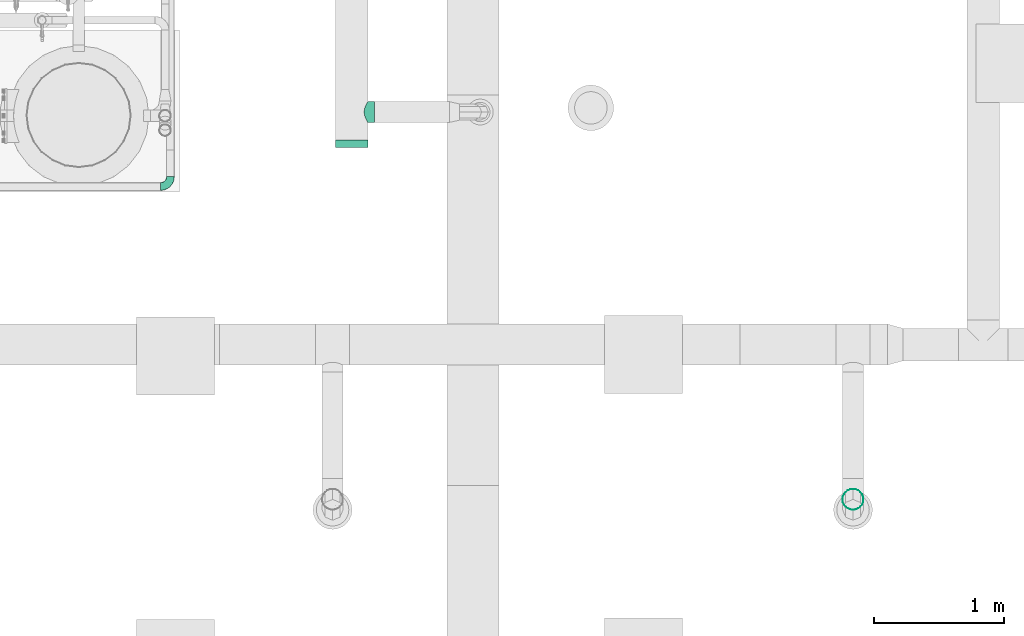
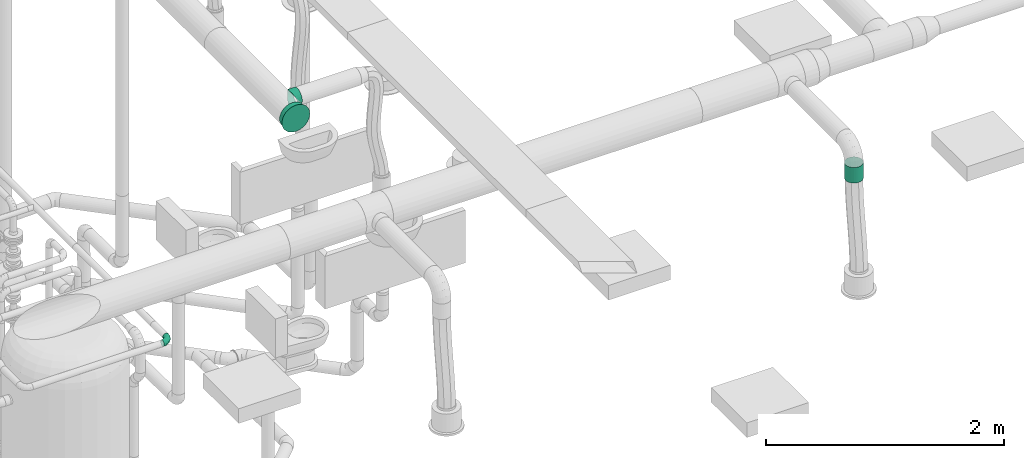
# One storey, part 95 of 374: 3 flow segments, 1 flow fitting.
"""IFC2X3 building model written with IfcOpenShell, lengths in metres."""

from ifc_helpers import new_model, si_unit, direction, origin, place, context, subcontext, project, spatial, open_shell, surface_model, source, transform, mapped, element, save


model = new_model("IFC2X3")

# Units and contexts
model_context = context("Model", 3, precision=1e-05, world=origin(), true_north=direction((-0.4480736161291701, 0.8939966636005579)))
body_context = subcontext(model_context, "Body", "Model", "MODEL_VIEW")
ifc_project = project(units=[si_unit("LENGTHUNIT", "METRE"), si_unit("AREAUNIT", "SQUARE_METRE"), si_unit("VOLUMEUNIT", "CUBIC_METRE"), si_unit("PLANEANGLEUNIT", "RADIAN"), si_unit("THERMODYNAMICTEMPERATUREUNIT", "KELVIN"), si_unit("MASSUNIT", "GRAM", prefix="KILO"), si_unit("TIMEUNIT", "SECOND")], contexts=[model_context])

# Site, building, storey
site_placement = place(None, origin())
site = spatial("IfcSite", under=ifc_project, at=site_placement, Name="Site 1", CompositionType="ELEMENT")
building_placement = place(site_placement, origin())
building = spatial("IfcBuilding", under=site, at=building_placement, Name="Undefined", CompositionType="ELEMENT")
storey_placement = place(building_placement, origin())
storey = spatial("IfcBuildingStorey", under=building, at=storey_placement, Name="Rez de chauss\x8ee", CompositionType="ELEMENT", Elevation=0.0)

# Flow segments
shared_shape_1 = source(origin(), body_context, "Body", "SurfaceModel", [
    surface_model("IfcFaceBasedSurfaceModel", [(0.0, 0.020884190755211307, 0.0), (0.0, 0.0, 0.0), (0.16000000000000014, 0.0, -4.4408921e-16), (0.16000000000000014, 0.0208841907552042, -4.4408921e-16), (0.0, -0.020172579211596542, -0.005405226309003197), (0.16000000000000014, -0.020172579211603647, -0.005405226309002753), (0.0, -0.03825881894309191, -0.015847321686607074), (0.16000000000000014, -0.03825881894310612, -0.015847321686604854), (0.0, -0.05302617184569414, -0.0306146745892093), (0.16000000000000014, -0.05302617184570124, -0.03061467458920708), (0.0, -0.06346826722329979, -0.04870091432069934), (0.16000000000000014, -0.0634682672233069, -0.04870091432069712), (0.0, -0.06887349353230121, -0.06887349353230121), (0.16000000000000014, -0.06887349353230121, -0.06887349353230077), (0.0, -0.06887349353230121, -0.08975768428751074), (0.16000000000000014, -0.06887349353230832, -0.08975768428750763), (0.0, -0.06346826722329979, -0.10993026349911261), (0.16000000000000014, -0.0634682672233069, -0.10993026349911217), (0.0, -0.05302617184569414, -0.12801650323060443), (0.16000000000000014, -0.05302617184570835, -0.1280165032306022), (0.0, -0.038258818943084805, -0.14278385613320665), (0.16000000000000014, -0.03825881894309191, -0.14278385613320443), (0.0, -0.020172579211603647, -0.15322595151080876), (0.16000000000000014, -0.020172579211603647, -0.1532259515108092), (0.0, 7.105427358e-15, -0.15863117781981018), (0.16000000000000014, -7.105427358e-15, -0.15863117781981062), (0.0, 0.020884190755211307, -0.15863117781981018), (0.16000000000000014, 0.0208841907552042, -0.15863117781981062), (0.0, 0.04105676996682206, -0.15322595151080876), (0.16000000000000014, 0.04105676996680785, -0.1532259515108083), (0.0, 0.05914300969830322, -0.1427838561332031), (0.16000000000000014, 0.05914300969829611, -0.14278385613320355), (0.0, 0.07391036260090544, -0.12801650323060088), (0.16000000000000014, 0.07391036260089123, -0.1280165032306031), (0.0, 0.0843524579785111, -0.10993026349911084), (0.16000000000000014, 0.08435245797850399, -0.10993026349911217), (0.0, 0.08975768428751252, -0.08975768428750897), (0.16000000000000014, 0.08975768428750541, -0.08975768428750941), (0.0, 0.08975768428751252, -0.06887349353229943), (0.16000000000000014, 0.08975768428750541, -0.06887349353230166), (0.0, 0.0843524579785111, -0.048700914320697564), (0.16000000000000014, 0.08435245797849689, -0.04870091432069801), (0.0, 0.07391036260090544, -0.030614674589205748), (0.16000000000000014, 0.07391036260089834, -0.03061467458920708), (0.0, 0.05914300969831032, -0.015847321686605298), (0.16000000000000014, 0.05914300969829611, -0.01584732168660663), (0.0, 0.04105676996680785, -0.005405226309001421), (0.16000000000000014, 0.04105676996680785, -0.005405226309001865)], [open_shell([[[0, 1, 2, 3]], [[1, 4, 5, 2]], [[4, 6, 7, 5]], [[6, 8, 9, 7]], [[8, 10, 11, 9]], [[10, 12, 13, 11]], [[12, 14, 15, 13]], [[14, 16, 17, 15]], [[16, 18, 19, 17]], [[18, 20, 21, 19]], [[20, 22, 23, 21]], [[22, 24, 25, 23]], [[24, 26, 27, 25]], [[26, 28, 29, 27]], [[28, 30, 31, 29]], [[30, 32, 33, 31]], [[32, 34, 35, 33]], [[34, 36, 37, 35]], [[36, 38, 39, 37]], [[38, 40, 41, 39]], [[40, 42, 43, 41]], [[42, 44, 45, 43]], [[44, 46, 47, 45]], [[46, 0, 3, 47]]])]),
])
flow_segment_1_placement = place(storey_placement, origin())
element("IfcFlowSegment", 1, at=flow_segment_1_placement, inside=storey, Name="Tube", ObjectType="Tube", context=body_context, shape_type="MappedRepresentation", body=[
    mapped(shared_shape_1, transform((60.269298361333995, 7.112272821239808, 3.4800000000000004), x_axis=(0.0, 0.0, 1.0), y_axis=(0.9914448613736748, 0.13052619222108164, 0.0), z_axis=(-0.13052619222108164, 0.9914448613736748, 0.0))),
])
shared_shape_2 = source(origin(), body_context, "Body", "SurfaceModel", [
    surface_model("IfcFaceBasedSurfaceModel", [(0.001726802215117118, 0.020884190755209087, 0.0), (0.0, 0.0, 0.0), (0.051726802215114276, 8.8817842e-16, 0.0), (0.051726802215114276, 0.020884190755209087, 0.0), (-0.0048460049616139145, -0.02017257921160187, -0.005405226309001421), (0.051726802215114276, -0.02017257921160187, -0.005405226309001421), (-0.011805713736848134, -0.0382588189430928, -0.015847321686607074), (0.051726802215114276, -0.0382588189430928, -0.015847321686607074), (-0.019229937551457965, -0.05302617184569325, -0.0306146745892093), (0.051726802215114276, -0.05302617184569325, -0.0306146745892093), (-0.025019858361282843, -0.06346826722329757, -0.04870091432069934), (0.051726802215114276, -0.06346826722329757, -0.04870091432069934), (-0.027226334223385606, -0.06887349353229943, -0.06887349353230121), (0.051726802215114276, -0.06887349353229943, -0.06887349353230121), (-0.025019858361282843, -0.06887349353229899, -0.08975768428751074), (0.051726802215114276, -0.06887349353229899, -0.08975768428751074), (-0.019229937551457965, -0.06346826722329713, -0.10993026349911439), (0.051726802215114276, -0.06346826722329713, -0.10993026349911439), (-0.011805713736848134, -0.05302617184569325, -0.12801650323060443), (0.051726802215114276, -0.05302617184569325, -0.12801650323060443), (-0.0048460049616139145, -0.038258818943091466, -0.14278385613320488), (0.051726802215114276, -0.038258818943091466, -0.14278385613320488), (0.0, -0.020172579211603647, -0.15322595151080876), (0.051726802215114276, -0.020172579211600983, -0.15322595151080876), (0.001726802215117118, 2.220446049e-15, -0.15863117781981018), (0.051726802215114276, 2.220446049e-15, -0.15863117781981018), (0.0, 0.020884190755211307, -0.15863117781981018), (0.051726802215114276, 0.020884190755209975, -0.15863117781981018), (-0.0048460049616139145, 0.04105676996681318, -0.15322595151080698), (0.051726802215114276, 0.04105676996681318, -0.15322595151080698), (-0.011805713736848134, 0.05914300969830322, -0.1427838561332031), (0.051726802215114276, 0.05914300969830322, -0.1427838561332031), (-0.019229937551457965, 0.07391036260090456, -0.12801650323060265), (0.051726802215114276, 0.07391036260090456, -0.12801650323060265), (-0.025019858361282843, 0.08435245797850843, -0.10993026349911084), (0.051726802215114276, 0.08435245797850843, -0.10993026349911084), (-0.027226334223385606, 0.08975768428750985, -0.08975768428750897), (0.051726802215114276, 0.08975768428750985, -0.08975768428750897), (-0.025019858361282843, 0.08975768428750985, -0.06887349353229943), (0.051726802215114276, 0.08975768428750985, -0.06887349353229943), (-0.019229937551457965, 0.08435245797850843, -0.048700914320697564), (0.051726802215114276, 0.08435245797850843, -0.048700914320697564), (-0.011805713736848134, 0.07391036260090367, -0.030614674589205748), (0.051726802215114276, 0.07391036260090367, -0.030614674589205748), (-0.0048460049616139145, 0.05914300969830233, -0.01584732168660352), (0.051726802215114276, 0.05914300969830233, -0.01584732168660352), (0.0, 0.04105676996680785, -0.005405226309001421), (0.051726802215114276, 0.04105676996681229, -0.005405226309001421)], [open_shell([[[0, 1, 2, 3]], [[1, 4, 5, 2]], [[4, 6, 7, 5]], [[6, 8, 9, 7]], [[8, 10, 11, 9]], [[10, 12, 13, 11]], [[12, 14, 15, 13]], [[14, 16, 17, 15]], [[16, 18, 19, 17]], [[18, 20, 21, 19]], [[20, 22, 23, 21]], [[22, 24, 25, 23]], [[24, 26, 27, 25]], [[26, 28, 29, 27]], [[28, 30, 31, 29]], [[30, 32, 33, 31]], [[32, 34, 35, 33]], [[34, 36, 37, 35]], [[36, 38, 39, 37]], [[38, 40, 41, 39]], [[40, 42, 43, 41]], [[42, 44, 45, 43]], [[44, 46, 47, 45]], [[46, 0, 3, 47]]])]),
])
flow_segment_2_placement = place(storey_placement, origin())
element("IfcFlowSegment", 2, at=flow_segment_2_placement, inside=storey, Name="Piquage équerre circulaire", ObjectType="Piquage équerre circulaire", context=body_context, shape_type="MappedRepresentation", body=[
    mapped(shared_shape_2, transform((56.559324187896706, 9.934959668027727, 3.779294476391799), x_axis=(1.0, 0.0, 0.0), y_axis=(0.0, -0.1305261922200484, 0.9914448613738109), z_axis=(0.0, -0.9914448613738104, -0.13052619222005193))),
])

# Flow fitting
shared_shape_3 = source(origin(), body_context, "Body", "SurfaceModel", [
    surface_model("IfcFaceBasedSurfaceModel", [(0.0, 0.03263154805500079, 0.0), (0.0, 0.0, 0.0), (0.05940000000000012, 7.105427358e-15, 4.4408921e-16), (0.05940000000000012, 0.03263154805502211, 4.4408921e-16), (0.0, -0.031519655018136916, -0.008445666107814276), (0.05940000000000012, -0.03151965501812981, -0.008445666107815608), (0.0, -0.05977940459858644, -0.024761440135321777), (0.05940000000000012, -0.05977940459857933, -0.024761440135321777), (0.0, -0.08285339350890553, -0.047835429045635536), (0.05940000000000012, -0.08285339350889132, -0.04783542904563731), (0.0, -0.09916916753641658, -0.07609517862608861), (0.05940000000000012, -0.09916916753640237, -0.07609517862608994), (0.0, -0.1076148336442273, -0.10761483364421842), (0.05940000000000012, -0.10761483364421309, -0.1076148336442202), (0.0, -0.1076148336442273, -0.14024638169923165), (0.05940000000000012, -0.10761483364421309, -0.14024638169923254), (0.0, -0.09916916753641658, -0.17176603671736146), (0.05940000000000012, -0.09916916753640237, -0.17176603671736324), (0.0, -0.08285339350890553, -0.2000257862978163), (0.05940000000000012, -0.08285339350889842, -0.20002578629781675), (0.0, -0.059779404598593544, -0.22309977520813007), (0.05940000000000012, -0.05977940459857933, -0.22309977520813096), (0.0, -0.03151965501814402, -0.23941554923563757), (0.05940000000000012, -0.031519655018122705, -0.23941554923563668), (0.0, -1.4210854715e-14, -0.24786121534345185), (0.05940000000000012, 7.105427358e-15, -0.2478612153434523), (0.0, 0.03263154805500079, -0.24786121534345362), (0.05940000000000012, 0.032631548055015, -0.24786121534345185), (0.0, 0.0641512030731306, -0.23941554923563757), (0.05940000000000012, 0.06415120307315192, -0.23941554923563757), (0.0, 0.09241095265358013, -0.22309977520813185), (0.05940000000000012, 0.09241095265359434, -0.2230997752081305), (0.0, 0.11548494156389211, -0.2000257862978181), (0.05940000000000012, 0.11548494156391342, -0.20002578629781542), (0.0, 0.13180071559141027, -0.171766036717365), (0.05940000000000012, 0.13180071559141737, -0.17176603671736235), (0.0, 0.140246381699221, -0.1402463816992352), (0.05940000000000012, 0.1402463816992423, -0.14024638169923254), (0.0, 0.140246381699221, -0.10761483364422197), (0.05940000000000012, 0.1402463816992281, -0.10761483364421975), (0.0, 0.13180071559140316, -0.07609517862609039), (0.05940000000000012, 0.13180071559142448, -0.0760951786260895), (0.0, 0.11548494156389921, -0.04783542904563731), (0.05940000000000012, 0.11548494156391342, -0.047835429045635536), (0.0, 0.09241095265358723, -0.024761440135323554), (0.05940000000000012, 0.09241095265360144, -0.02476144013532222), (0.0, 0.06415120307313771, -0.008445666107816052), (0.05940000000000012, 0.06415120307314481, -0.00844566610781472), (0.05940000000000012, 0.034002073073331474, 0.010410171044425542), (0.05940000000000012, -0.0013705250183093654, 0.010410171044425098), (0.060000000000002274, -0.0013705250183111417, 0.01041017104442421), (0.0600000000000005, 0.034002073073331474, 0.010410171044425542), (0.05940000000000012, -0.03553783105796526, 0.0012550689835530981), (0.0600000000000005, -0.03553783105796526, 0.0012550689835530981), (0.05940000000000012, -0.06617139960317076, -0.01643123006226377), (0.0600000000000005, -0.06617139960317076, -0.01643123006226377), (0.05940000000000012, -0.09118360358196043, -0.041443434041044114), (0.0600000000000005, -0.09118360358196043, -0.041443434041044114), (0.05940000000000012, -0.10886990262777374, -0.07207700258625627), (0.0600000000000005, -0.10886990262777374, -0.07207700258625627), (0.05940000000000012, -0.11802500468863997, -0.10624430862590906), (0.0600000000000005, -0.11802500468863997, -0.10624430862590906), (0.05940000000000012, -0.11802500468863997, -0.14161690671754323), (0.0600000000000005, -0.11802500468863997, -0.14161690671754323), (0.05940000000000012, -0.10886990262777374, -0.17578421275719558), (0.0600000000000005, -0.10886990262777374, -0.17578421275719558), (0.05940000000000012, -0.09118360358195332, -0.20641778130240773), (0.0600000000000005, -0.09118360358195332, -0.20641778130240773), (0.05940000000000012, -0.06617139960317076, -0.23142998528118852), (0.0600000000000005, -0.06617139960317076, -0.23142998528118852), (0.05940000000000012, -0.03553783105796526, -0.24911628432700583), (0.0600000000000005, -0.03553783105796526, -0.24911628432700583), (0.05940000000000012, -0.00137052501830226, -0.25827138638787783), (0.0600000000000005, -0.00137052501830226, -0.25827138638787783), (0.05940000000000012, 0.03400207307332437, -0.2582713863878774), (0.0600000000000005, 0.03400207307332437, -0.2582713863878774), (0.05940000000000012, 0.06816937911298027, -0.2491162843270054), (0.0600000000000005, 0.06816937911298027, -0.2491162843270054), (0.05940000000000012, 0.09880294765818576, -0.23142998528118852), (0.0600000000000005, 0.09880294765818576, -0.23142998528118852), (0.05940000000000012, 0.12381515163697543, -0.20641778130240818), (0.0600000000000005, 0.12381515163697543, -0.20641778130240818), (0.05940000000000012, 0.14150145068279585, -0.17578421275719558), (0.0600000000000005, 0.14150145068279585, -0.17578421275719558), (0.05940000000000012, 0.15065655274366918, -0.1416169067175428), (0.0600000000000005, 0.15065655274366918, -0.1416169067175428), (0.05940000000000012, 0.15065655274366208, -0.10624430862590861), (0.0600000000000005, 0.15065655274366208, -0.10624430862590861), (0.05940000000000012, 0.14150145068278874, -0.07207700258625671), (0.0600000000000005, 0.14150145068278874, -0.07207700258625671), (0.05940000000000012, 0.12381515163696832, -0.04144343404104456), (0.0600000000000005, 0.12381515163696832, -0.04144343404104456), (0.05940000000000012, 0.09880294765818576, -0.01643123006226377), (0.0600000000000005, 0.09880294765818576, -0.01643123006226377), (0.05940000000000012, 0.06816937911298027, 0.0012550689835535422), (0.0600000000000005, 0.06816937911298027, 0.0012550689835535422), (0.05940000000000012, 0.01631577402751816, -0.12393060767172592), (0.0600000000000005, 0.01631577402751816, -0.12393060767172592)], [open_shell([[[0, 1, 2, 3]], [[1, 4, 5, 2]], [[4, 6, 7, 5]], [[6, 8, 9, 7]], [[8, 10, 11, 9]], [[10, 12, 13, 11]], [[12, 14, 15, 13]], [[14, 16, 17, 15]], [[16, 18, 19, 17]], [[18, 20, 21, 19]], [[20, 22, 23, 21]], [[22, 24, 25, 23]], [[24, 26, 27, 25]], [[26, 28, 29, 27]], [[28, 30, 31, 29]], [[30, 32, 33, 31]], [[32, 34, 35, 33]], [[34, 36, 37, 35]], [[36, 38, 39, 37]], [[38, 40, 41, 39]], [[40, 42, 43, 41]], [[42, 44, 45, 43]], [[44, 46, 47, 45]], [[46, 0, 3, 47]], [[48, 49, 50, 51]], [[49, 52, 53, 50]], [[52, 54, 55, 53]], [[54, 56, 57, 55]], [[56, 58, 59, 57]], [[58, 60, 61, 59]], [[60, 62, 63, 61]], [[62, 64, 65, 63]], [[64, 66, 67, 65]], [[66, 68, 69, 67]], [[68, 70, 71, 69]], [[70, 72, 73, 71]], [[72, 74, 75, 73]], [[74, 76, 77, 75]], [[76, 78, 79, 77]], [[78, 80, 81, 79]], [[80, 82, 83, 81]], [[82, 84, 85, 83]], [[84, 86, 87, 85]], [[86, 88, 89, 87]], [[88, 90, 91, 89]], [[90, 92, 93, 91]], [[92, 94, 95, 93]], [[94, 48, 51, 95]], [[96, 49, 48]], [[96, 52, 49]], [[96, 54, 52]], [[96, 56, 54]], [[96, 58, 56]], [[96, 60, 58]], [[96, 62, 60]], [[96, 64, 62]], [[96, 66, 64]], [[96, 68, 66]], [[96, 70, 68]], [[96, 72, 70]], [[96, 74, 72]], [[96, 76, 74]], [[96, 78, 76]], [[96, 80, 78]], [[96, 82, 80]], [[96, 84, 82]], [[96, 86, 84]], [[96, 88, 86]], [[96, 90, 88]], [[96, 92, 90]], [[96, 94, 92]], [[96, 48, 94]], [[97, 95, 51]], [[97, 93, 95]], [[97, 91, 93]], [[97, 89, 91]], [[97, 87, 89]], [[97, 85, 87]], [[97, 83, 85]], [[97, 81, 83]], [[97, 79, 81]], [[97, 77, 79]], [[97, 75, 77]], [[97, 73, 75]], [[97, 71, 73]], [[97, 69, 71]], [[97, 67, 69]], [[97, 65, 67]], [[97, 63, 65]], [[97, 61, 63]], [[97, 59, 61]], [[97, 57, 59]], [[97, 55, 57]], [[97, 53, 55]], [[97, 50, 53]], [[97, 51, 50]]])]),
])
flow_fitting_placement = place(storey_placement, origin())
element("IfcFlowFitting", 3, at=flow_fitting_placement, inside=storey, Name="Enddeckel", ObjectType="Enddeckel", context=body_context, shape_type="MappedRepresentation", body=[
    mapped(shared_shape_3, transform((56.403698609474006, 9.797942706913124, 3.920740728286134), x_axis=(0.0, -1.0, 0.0), y_axis=(0.9914448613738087, 0.0, 0.13052619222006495), z_axis=(-0.13052619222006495, 0.0, 0.9914448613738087))),
])

# Flow segment
shared_shape_4 = source(origin(), body_context, "Body", "SurfaceModel", [
    surface_model("IfcFaceBasedSurfaceModel", [(0.027710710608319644, 4.4408921e-16, 0.0), (0.02757661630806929, 0.00786958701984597, 7.105427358e-15), (0.00013409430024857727, 0.00786958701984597, 0.0), (0.0, 0.0, 0.0), (-0.02637334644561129, 0.008788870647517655, -0.0070429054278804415), (-0.026766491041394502, 0.0009282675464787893, -0.007111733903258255), (-0.050139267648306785, 0.010564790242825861, -0.02064875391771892), (-0.050764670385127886, 0.0027215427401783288, -0.02085054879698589), (-0.06954406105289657, 0.013076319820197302, -0.03989032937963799), (-0.07035910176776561, 0.00525761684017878, -0.04028016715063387), (-0.0832653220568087, 0.01615230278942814, -0.06345635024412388), (-0.08421445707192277, 0.00836366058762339, -0.06407649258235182), (-0.09036796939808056, 0.019583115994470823, -0.08974083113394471), (-0.0913865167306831, 0.011828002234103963, -0.09061784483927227), (0.027183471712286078, 0.015466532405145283, -0.0020199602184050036), (0.0005272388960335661, 0.015466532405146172, -0.0020199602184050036), (-0.025220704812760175, 0.016359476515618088, -0.008861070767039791), (-0.048305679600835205, 0.018084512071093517, -0.02207708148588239), (-0.06715448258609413, 0.020524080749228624, -0.04076734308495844), (-0.0804825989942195, 0.023511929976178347, -0.06365814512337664), (-0.08738173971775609, 0.026844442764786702, -0.08918951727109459), (0.026558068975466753, 0.022273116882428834, -0.005922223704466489), (0.001152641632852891, 0.02227311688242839, -0.005922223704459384), (-0.02338711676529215, 0.023124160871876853, -0.012442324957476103), (-0.04538886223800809, 0.02476825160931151, -0.02503819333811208), (-0.06335321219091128, 0.027093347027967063, -0.042851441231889), (-0.07605592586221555, 0.029940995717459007, -0.06466812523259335), (-0.08263133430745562, 0.033117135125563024, -0.08900147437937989), (0.025743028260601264, 0.0278254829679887, -0.011440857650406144), (0.0019676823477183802, 0.027825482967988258, -0.011440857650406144), (-0.020997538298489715, 0.028621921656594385, -0.017542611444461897), (-0.04158759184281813, 0.03016052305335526, -0.029330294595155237), (-0.058399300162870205, 0.0323364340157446, -0.04600059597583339), (-0.07028697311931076, 0.03500136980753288, -0.06641746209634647), (-0.07644048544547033, 0.0379737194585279, -0.08918951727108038), (0.02479389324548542, 0.03174524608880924, -0.01819977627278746), (0.0029168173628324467, 0.03174524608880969, -0.01819977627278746), (-0.018214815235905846, 0.0324780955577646, -0.023814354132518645), (-0.03716091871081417, 0.033893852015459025, -0.034660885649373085), (-0.052630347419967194, 0.03589603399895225, -0.05000019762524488), (-0.06356888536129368, 0.03834819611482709, -0.06878694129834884), (-0.06923108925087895, 0.041083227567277, -0.0897408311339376), (0.023775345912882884, 0.03376528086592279, -0.02573837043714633), (0.003935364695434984, 0.03376528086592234, -0.02573837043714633), (-0.01522858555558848, 0.03442989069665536, -0.03083014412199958), (-0.0324105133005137, 0.03571381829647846, -0.040666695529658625), (-0.046439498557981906, 0.0375295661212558, -0.05457767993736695), (-0.05635948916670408, 0.039753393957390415, -0.07161508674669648), (-0.061494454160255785, 0.04223375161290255, -0.09061784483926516), (0.022756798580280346, 0.03374792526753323, -0.033542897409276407), (0.0049539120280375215, 0.033747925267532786, -0.033542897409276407), (-0.01224235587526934, 0.03434429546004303, -0.03811186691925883), (-0.027660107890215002, 0.035496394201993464, -0.04693843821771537), (-0.040248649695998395, 0.0371257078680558, -0.05942109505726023), (-0.04915009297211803, 0.039121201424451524, -0.07470916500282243), (-0.05375781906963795, 0.041346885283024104, -0.09176079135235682), (0.02180766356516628, 0.03169436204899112, -0.04108149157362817), (0.005903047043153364, 0.031694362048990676, -0.04108149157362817), (-0.00945963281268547, 0.03222714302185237, -0.045163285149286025), (-0.02323343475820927, 0.03325639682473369, -0.05304870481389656), (-0.034479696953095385, 0.034711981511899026, -0.06420037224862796), (-0.04243200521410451, 0.036494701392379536, -0.07785831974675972), (-0.04654842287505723, 0.03848306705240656, -0.09309178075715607), (0.020992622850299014, 0.02774453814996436, -0.0478404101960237), (0.006718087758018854, 0.027744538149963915, -0.0478404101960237), (-0.007070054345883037, 0.02822271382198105, -0.05150385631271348), (-0.019432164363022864, 0.0291464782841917, -0.0585810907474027), (-0.029525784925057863, 0.030452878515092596, -0.06858981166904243), (-0.03666305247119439, 0.032052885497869, -0.08084794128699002), (-0.04035757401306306, 0.03383746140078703, -0.09452010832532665), (0.020367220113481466, 0.022167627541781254, -0.05335904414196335), (0.0073434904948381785, 0.022167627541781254, -0.05335904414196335), (-0.00523646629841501, 0.02260390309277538, -0.05670148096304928), (-0.016515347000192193, 0.023446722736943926, -0.06315857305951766), (-0.025724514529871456, 0.02463864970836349, -0.07229028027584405), (-0.03223637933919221, 0.02609845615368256, -0.0834742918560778), (-0.03560716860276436, 0.027726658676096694, -0.09594843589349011), (0.019974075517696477, 0.01534368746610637, -0.05726130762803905), (0.007736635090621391, 0.01534368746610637, -0.05726130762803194), (-0.004083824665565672, 0.01575362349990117, -0.06040194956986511), (-0.014681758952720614, 0.01654555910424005, -0.06646920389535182), (-0.02333493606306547, 0.01766552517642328, -0.07504959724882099), (-0.029453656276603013, 0.01903719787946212, -0.08555839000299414), (-0.032620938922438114, 0.02056709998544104, -0.09727942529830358), (0.019839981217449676, 0.00773775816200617, -0.05928126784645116), (0.007870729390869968, 0.007737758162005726, -0.05928126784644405), (-0.003690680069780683, 0.008138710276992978, -0.062353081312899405), (-0.014056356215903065, 0.008913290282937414, -0.06828736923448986), (-0.022519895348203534, 0.01000871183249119, -0.07667971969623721), (-0.0285045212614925, 0.011350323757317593, -0.08695820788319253), (-0.03160239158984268, 0.012846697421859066, -0.09842237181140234), (0.019974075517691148, -0.00013182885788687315, -0.05928126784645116), (0.007736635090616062, -0.00013182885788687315, -0.05928126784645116), (-0.004083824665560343, 0.0002781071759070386, -0.062421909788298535), (-0.014681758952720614, 0.001070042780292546, -0.06848916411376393), (-0.02333493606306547, 0.0021900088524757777, -0.0770695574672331), (-0.029453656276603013, 0.0035616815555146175, -0.08757835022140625), (-0.032620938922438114, 0.005091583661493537, -0.09929938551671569), (0.020367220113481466, -0.007728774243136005, -0.057261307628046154), (0.0073434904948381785, -0.007728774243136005, -0.057261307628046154), (-0.00523646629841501, -0.00729249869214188, -0.06060374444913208), (-0.016515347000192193, -0.0064496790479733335, -0.06706083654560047), (-0.025724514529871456, -0.005257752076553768, -0.07619254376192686), (-0.03223637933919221, -0.0037979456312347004, -0.0873765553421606), (-0.03560716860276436, -0.0021697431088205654, -0.09985069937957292), (0.020992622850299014, -0.01453535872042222, -0.053359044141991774), (0.006718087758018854, -0.014535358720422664, -0.053359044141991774), (-0.007070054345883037, -0.01405718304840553, -0.05702249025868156), (-0.019432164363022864, -0.013133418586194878, -0.06409972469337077), (-0.029525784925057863, -0.011827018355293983, -0.07410844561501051), (-0.03666305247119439, -0.01022701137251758, -0.0863665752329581), (-0.04035757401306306, -0.008442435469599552, -0.10003874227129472), (0.02180766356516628, -0.020087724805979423, -0.04784041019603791), (0.005903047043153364, -0.020087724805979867, -0.04784041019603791), (-0.00945963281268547, -0.019554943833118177, -0.05192220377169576), (-0.02323343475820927, -0.018525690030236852, -0.0598076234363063), (-0.034479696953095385, -0.017070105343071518, -0.0709592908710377), (-0.04243200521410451, -0.015287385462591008, -0.08461723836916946), (-0.04654842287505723, -0.013299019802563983, -0.09985069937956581), (0.022756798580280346, -0.024007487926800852, -0.0410814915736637), (0.0049539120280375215, -0.024007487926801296, -0.0410814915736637), (-0.01224235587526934, -0.023411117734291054, -0.04565046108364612), (-0.027660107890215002, -0.022259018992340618, -0.054477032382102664), (-0.040248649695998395, -0.02062970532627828, -0.06695968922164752), (-0.04915009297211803, -0.018634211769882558, -0.08224775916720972), (-0.05375781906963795, -0.016408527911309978, -0.09929938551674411), (0.023775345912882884, -0.026027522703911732, -0.033542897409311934), (0.003935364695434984, -0.026027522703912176, -0.033542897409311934), (-0.01522858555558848, -0.025362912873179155, -0.038634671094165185), (-0.0324105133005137, -0.024078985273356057, -0.04847122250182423), (-0.046439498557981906, -0.02226323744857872, -0.062382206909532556), (-0.05635948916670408, -0.020039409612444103, -0.07941961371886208), (-0.061494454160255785, -0.01755905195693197, -0.09842237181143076), (0.02479389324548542, -0.02601016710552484, -0.02573837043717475), (0.0029168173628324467, -0.026010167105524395, -0.02573837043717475), (-0.018214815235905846, -0.025277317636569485, -0.031352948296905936), (-0.03716091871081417, -0.023861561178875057, -0.04219947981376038), (-0.052630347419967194, -0.021859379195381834, -0.05753879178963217), (-0.06356888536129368, -0.01940721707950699, -0.07632553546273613), (-0.06923108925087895, -0.01667218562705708, -0.0972794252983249), (0.025743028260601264, -0.023956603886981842, -0.018199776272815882), (0.0019676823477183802, -0.023956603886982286, -0.018199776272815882), (-0.020997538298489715, -0.02316016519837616, -0.024301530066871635), (-0.04158759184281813, -0.021621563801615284, -0.036089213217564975), (-0.058399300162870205, -0.019445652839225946, -0.05275951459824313), (-0.07028697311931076, -0.016780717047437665, -0.0731763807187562), (-0.07644048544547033, -0.013808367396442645, -0.09594843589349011), (0.026558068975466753, -0.020006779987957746, -0.011440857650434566), (0.001152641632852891, -0.02000677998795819, -0.01144085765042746), (-0.02338711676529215, -0.019155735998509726, -0.01796095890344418), (-0.04538886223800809, -0.01751164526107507, -0.030556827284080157), (-0.06335321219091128, -0.015186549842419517, -0.048370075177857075), (-0.07605592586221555, -0.012338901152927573, -0.07018675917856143), (-0.08263133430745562, -0.009162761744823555, -0.09452010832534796), (0.027183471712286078, -0.014429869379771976, -0.005922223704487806), (0.0005272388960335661, -0.014429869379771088, -0.005922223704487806), (-0.025220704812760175, -0.013536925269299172, -0.012763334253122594), (-0.048305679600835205, -0.011811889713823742, -0.02597934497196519), (-0.06715448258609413, -0.009372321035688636, -0.04466960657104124), (-0.0804825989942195, -0.006384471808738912, -0.06756040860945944), (-0.08738173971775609, -0.003051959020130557, -0.09309178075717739), (0.02757661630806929, -0.007605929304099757, -0.0020199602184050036), (0.00013409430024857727, -0.007605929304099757, -0.002019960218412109), (-0.02637334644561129, -0.006686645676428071, -0.00906286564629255), (-0.050139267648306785, -0.004910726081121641, -0.02266871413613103), (-0.06954406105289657, -0.0023991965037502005, -0.0419102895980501), (-0.0832653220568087, 0.0006767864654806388, -0.06547631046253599), (-0.09036796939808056, 0.004107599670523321, -0.09176079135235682)], [open_shell([[[0, 1, 2, 3]], [[3, 2, 4, 5]], [[5, 4, 6, 7]], [[7, 6, 8, 9]], [[9, 8, 10, 11]], [[11, 10, 12, 13]], [[1, 14, 15, 2]], [[2, 15, 16, 4]], [[4, 16, 17, 6]], [[6, 17, 18, 8]], [[8, 18, 19, 10]], [[10, 19, 20, 12]], [[14, 21, 22, 15]], [[15, 22, 23, 16]], [[16, 23, 24, 17]], [[17, 24, 25, 18]], [[18, 25, 26, 19]], [[19, 26, 27, 20]], [[21, 28, 29, 22]], [[22, 29, 30, 23]], [[23, 30, 31, 24]], [[24, 31, 32, 25]], [[25, 32, 33, 26]], [[26, 33, 34, 27]], [[28, 35, 36, 29]], [[29, 36, 37, 30]], [[30, 37, 38, 31]], [[31, 38, 39, 32]], [[32, 39, 40, 33]], [[33, 40, 41, 34]], [[35, 42, 43, 36]], [[36, 43, 44, 37]], [[37, 44, 45, 38]], [[38, 45, 46, 39]], [[39, 46, 47, 40]], [[40, 47, 48, 41]], [[42, 49, 50, 43]], [[43, 50, 51, 44]], [[44, 51, 52, 45]], [[45, 52, 53, 46]], [[46, 53, 54, 47]], [[47, 54, 55, 48]], [[49, 56, 57, 50]], [[50, 57, 58, 51]], [[51, 58, 59, 52]], [[52, 59, 60, 53]], [[53, 60, 61, 54]], [[54, 61, 62, 55]], [[56, 63, 64, 57]], [[57, 64, 65, 58]], [[58, 65, 66, 59]], [[59, 66, 67, 60]], [[60, 67, 68, 61]], [[61, 68, 69, 62]], [[63, 70, 71, 64]], [[64, 71, 72, 65]], [[65, 72, 73, 66]], [[66, 73, 74, 67]], [[67, 74, 75, 68]], [[68, 75, 76, 69]], [[70, 77, 78, 71]], [[71, 78, 79, 72]], [[72, 79, 80, 73]], [[73, 80, 81, 74]], [[74, 81, 82, 75]], [[75, 82, 83, 76]], [[77, 84, 85, 78]], [[78, 85, 86, 79]], [[79, 86, 87, 80]], [[80, 87, 88, 81]], [[81, 88, 89, 82]], [[82, 89, 90, 83]], [[84, 91, 92, 85]], [[85, 92, 93, 86]], [[86, 93, 94, 87]], [[87, 94, 95, 88]], [[88, 95, 96, 89]], [[89, 96, 97, 90]], [[91, 98, 99, 92]], [[92, 99, 100, 93]], [[93, 100, 101, 94]], [[94, 101, 102, 95]], [[95, 102, 103, 96]], [[96, 103, 104, 97]], [[98, 105, 106, 99]], [[99, 106, 107, 100]], [[100, 107, 108, 101]], [[101, 108, 109, 102]], [[102, 109, 110, 103]], [[103, 110, 111, 104]], [[105, 112, 113, 106]], [[106, 113, 114, 107]], [[107, 114, 115, 108]], [[108, 115, 116, 109]], [[109, 116, 117, 110]], [[110, 117, 118, 111]], [[112, 119, 120, 113]], [[113, 120, 121, 114]], [[114, 121, 122, 115]], [[115, 122, 123, 116]], [[116, 123, 124, 117]], [[117, 124, 125, 118]], [[119, 126, 127, 120]], [[120, 127, 128, 121]], [[121, 128, 129, 122]], [[122, 129, 130, 123]], [[123, 130, 131, 124]], [[124, 131, 132, 125]], [[126, 133, 134, 127]], [[127, 134, 135, 128]], [[128, 135, 136, 129]], [[129, 136, 137, 130]], [[130, 137, 138, 131]], [[131, 138, 139, 132]], [[133, 140, 141, 134]], [[134, 141, 142, 135]], [[135, 142, 143, 136]], [[136, 143, 144, 137]], [[137, 144, 145, 138]], [[138, 145, 146, 139]], [[140, 147, 148, 141]], [[141, 148, 149, 142]], [[142, 149, 150, 143]], [[143, 150, 151, 144]], [[144, 151, 152, 145]], [[145, 152, 153, 146]], [[147, 154, 155, 148]], [[148, 155, 156, 149]], [[149, 156, 157, 150]], [[150, 157, 158, 151]], [[151, 158, 159, 152]], [[152, 159, 160, 153]], [[154, 161, 162, 155]], [[155, 162, 163, 156]], [[156, 163, 164, 157]], [[157, 164, 165, 158]], [[158, 165, 166, 159]], [[159, 166, 167, 160]], [[161, 0, 3, 162]], [[162, 3, 5, 163]], [[163, 5, 7, 164]], [[164, 7, 9, 165]], [[165, 9, 11, 166]], [[166, 11, 13, 167]]])]),
])
flow_segment_3_placement = place(storey_placement, origin())
element("IfcFlowSegment", 4, at=flow_segment_3_placement, inside=storey, Name="Tube coudé", ObjectType="Tube coudé", context=body_context, shape_type="MappedRepresentation", body=[
    mapped(shared_shape_4, transform((55.07062191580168, 9.488083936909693, 2.1879999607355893), x_axis=(0.13052619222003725, 0.9914448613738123, 0.0), y_axis=(-0.12832103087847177, 0.016893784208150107, 0.9915887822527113), z_axis=(0.983105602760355, -0.12942830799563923, 0.12942830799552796))),
])

save(model, "model.ifc")
